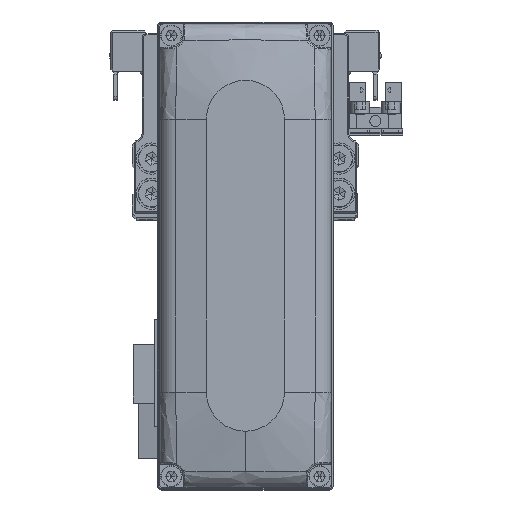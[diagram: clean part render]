
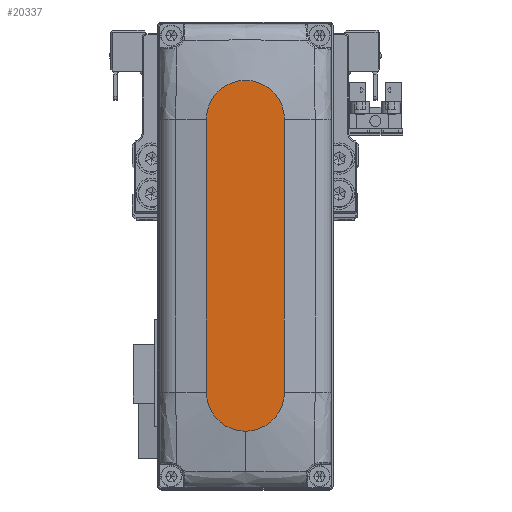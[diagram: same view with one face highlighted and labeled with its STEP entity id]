
A CAD part, top view. The second image highlights one B-rep face of the part: STEP entity #20337.
In plain terms, the highlighted planar face has unit normal (0, 0, 1).
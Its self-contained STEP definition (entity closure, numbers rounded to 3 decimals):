
#53 = DIRECTION ( 'NONE',  ( 0., 0., 1. ) ) ;
#634 = EDGE_CURVE ( 'NONE', #32075, #36915, #4940, .T. ) ;
#1573 = DIRECTION ( 'NONE',  ( 1., 0., 0. ) ) ;
#3914 = CARTESIAN_POINT ( 'NONE',  ( -35., 10., 28. ) ) ;
#4349 = EDGE_CURVE ( 'NONE', #8753, #19713, #25166, .T. ) ;
#4776 = CARTESIAN_POINT ( 'NONE',  ( 0., 0., 28. ) ) ;
#4940 = CIRCLE ( 'NONE', #9799, 10. ) ;
#6929 = CARTESIAN_POINT ( 'NONE',  ( 35., -10., 28. ) ) ;
#8705 = AXIS2_PLACEMENT_3D ( 'NONE', #16064, #27686, #1573 ) ;
#8753 = VERTEX_POINT ( 'NONE', #15529 ) ;
#8782 = DIRECTION ( 'NONE',  ( 1., 0., 0. ) ) ;
#9799 = AXIS2_PLACEMENT_3D ( 'NONE', #26174, #53, #11692 ) ;
#10478 = CARTESIAN_POINT ( 'NONE',  ( 35., 0., 28. ) ) ;
#11692 = DIRECTION ( 'NONE',  ( 1., 0., 0. ) ) ;
#12042 = CARTESIAN_POINT ( 'NONE',  ( 45., 0., 28. ) ) ;
#13988 = CIRCLE ( 'NONE', #35284, 10. ) ;
#14827 = EDGE_LOOP ( 'NONE', ( #34115, #15805, #34282, #25997, #34860 ) ) ;
#15071 = EDGE_CURVE ( 'NONE', #19713, #34907, #23257, .T. ) ;
#15529 = CARTESIAN_POINT ( 'NONE',  ( -35., 10., 28. ) ) ;
#15540 = DIRECTION ( 'NONE',  ( -1., 0., 0. ) ) ;
#15805 = ORIENTED_EDGE ( 'NONE', *, *, #4349, .T. ) ;
#16064 = CARTESIAN_POINT ( 'NONE',  ( -35., 0., 28. ) ) ;
#16406 = DIRECTION ( 'NONE',  ( 0., 0., 1. ) ) ;
#19271 = FACE_OUTER_BOUND ( 'NONE', #14827, .T. ) ;
#19479 = VECTOR ( 'NONE', #15540, 1000. ) ;
#19713 = VERTEX_POINT ( 'NONE', #29422 ) ;
#20337 = ADVANCED_FACE ( 'NONE', ( #19271 ), #30899, .T. ) ;
#21265 = CARTESIAN_POINT ( 'NONE',  ( 35., 10., 28. ) ) ;
#22107 = DIRECTION ( 'NONE',  ( 0., 0., 1. ) ) ;
#23257 = LINE ( 'NONE', #34889, #27741 ) ;
#25166 = CIRCLE ( 'NONE', #8705, 10. ) ;
#25997 = ORIENTED_EDGE ( 'NONE', *, *, #29365, .T. ) ;
#26174 = CARTESIAN_POINT ( 'NONE',  ( 35., 0., 28. ) ) ;
#27686 = DIRECTION ( 'NONE',  ( 0., 0., 1. ) ) ;
#27741 = VECTOR ( 'NONE', #8782, 1000. ) ;
#28027 = DIRECTION ( 'NONE',  ( 1., 0., 0. ) ) ;
#29365 = EDGE_CURVE ( 'NONE', #34907, #32075, #13988, .T. ) ;
#29422 = CARTESIAN_POINT ( 'NONE',  ( -35., -10., 28. ) ) ;
#30027 = LINE ( 'NONE', #3914, #19479 ) ;
#30102 = EDGE_CURVE ( 'NONE', #36915, #8753, #30027, .T. ) ;
#30899 = PLANE ( 'NONE',  #33276 ) ;
#32075 = VERTEX_POINT ( 'NONE', #12042 ) ;
#33276 = AXIS2_PLACEMENT_3D ( 'NONE', #4776, #16406, #28027 ) ;
#33733 = DIRECTION ( 'NONE',  ( 1., 0., 0. ) ) ;
#34115 = ORIENTED_EDGE ( 'NONE', *, *, #30102, .T. ) ;
#34282 = ORIENTED_EDGE ( 'NONE', *, *, #15071, .T. ) ;
#34860 = ORIENTED_EDGE ( 'NONE', *, *, #634, .T. ) ;
#34889 = CARTESIAN_POINT ( 'NONE',  ( -35., -10., 28. ) ) ;
#34907 = VERTEX_POINT ( 'NONE', #6929 ) ;
#35284 = AXIS2_PLACEMENT_3D ( 'NONE', #10478, #22107, #33733 ) ;
#36915 = VERTEX_POINT ( 'NONE', #21265 ) ;
